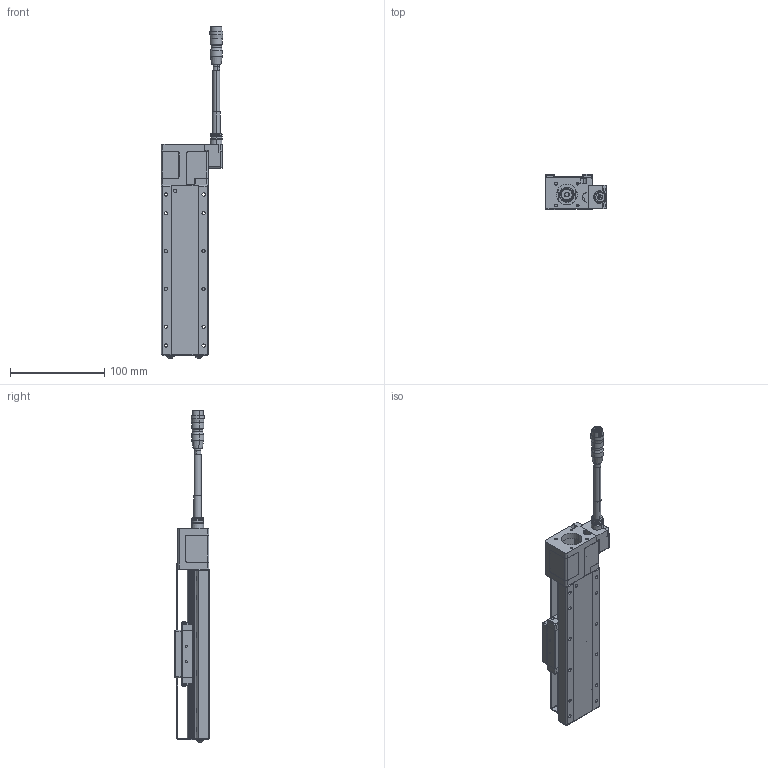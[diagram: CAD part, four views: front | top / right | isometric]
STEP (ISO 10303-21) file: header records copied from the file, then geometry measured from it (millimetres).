
FILE_DESCRIPTION (( 'STEP AP203' ), '1' );
FILE_NAME ('CXC50100-S2?N(42框無馬達).', '2024-01-05T03:04:25', ( '' ), ( '' ), 'SwSTEP 2.0', 'SolidWorks 2019', '' );
FILE_SCHEMA (( 'CONFIG_CONTROL_DESIGN' ));
Length unit declared in the file: millimetre
Products named in the file (10): SC03B008_SUS304(鍍鋅黑); CXN50-S2OPAN-01_GMT; SG02B004_SCM435(化鎳); CXC50100-S2OPAN-303_50; CXC50-102-10; CXC50100-S2?N(42框無馬達); HR10A-10J-12P_帶線示意; Group2^CXC50100-S2?N(42框無馬達)_defeature-_GMT; Group1^CXC50100-S2?N(42框無馬達)_defeature-_GMT; SD04B006_SD04B006-SCM435(化鎳)
Assembly tree (15 placements, depth 2):
  CXC50100-S2?N(42框無馬達)
    Group1^CXC50100-S2?N(42框無馬達)_defeature-_GMT
    Group2^CXC50100-S2?N(42框無馬達)_defeature-_GMT
    CXN50-S2OPAN-01_GMT
    CXC50100-S2OPAN-303_50
    SD04B006_SD04B006-SCM435(化鎳)  x2
    CXC50-102-10  x2
    SC03B008_SUS304(鍍鋅黑)  x4
    SG02B004_SCM435(化鎳)  x2
    HR10A-10J-12P_帶線示意
Bounding box: 65.47 x 37 x 351.7 mm (x, y, z)
Volume: 74861.9 mm3; surface area: 120244.4 mm2
Topology: 19 solids, 65 shells, 4237 faces, 10807 edges, 6523 vertices
Faces by surface type: plane 1381, cylinder 1329, cone 797, torus 344, sphere 204, bspline 182
Entity records: 128104 total; most frequent: CARTESIAN_POINT 30045, DIRECTION 21379, ORIENTED_EDGE 19976, EDGE_CURVE 9988, AXIS2_PLACEMENT_3D 8346, VERTEX_POINT 6136, VECTOR 4687, LINE 4687
